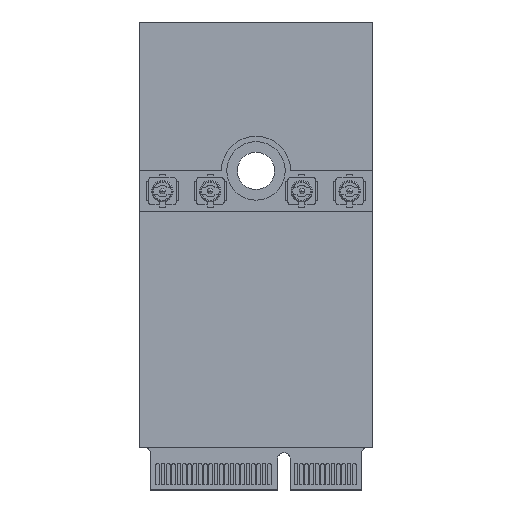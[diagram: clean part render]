
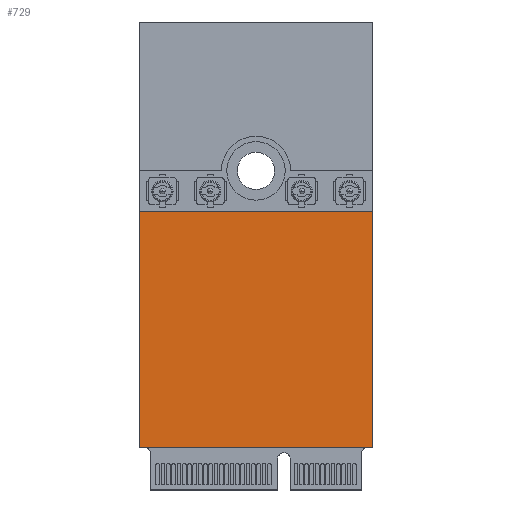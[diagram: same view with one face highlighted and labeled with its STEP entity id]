
A CAD part, top view. The second image highlights one B-rep face of the part: STEP entity #729.
In plain terms, the highlighted planar face has unit normal (0, 0, 1).
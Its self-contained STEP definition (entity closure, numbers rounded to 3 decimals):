
#721=AXIS2_PLACEMENT_3D('Plane Axis2P3D',#718,#719,#720) ;
#593=CARTESIAN_POINT('Vertex',(-11.,-3.8,1.5)) ;
#607=CARTESIAN_POINT('Vertex',(-11.,-26.,1.5)) ;
#610=CARTESIAN_POINT('Line Origine',(-11.,-14.9,1.5)) ;
#638=CARTESIAN_POINT('Vertex',(11.,-26.,1.5)) ;
#641=CARTESIAN_POINT('Line Origine',(0.,-26.,1.5)) ;
#669=CARTESIAN_POINT('Vertex',(11.,-3.8,1.5)) ;
#672=CARTESIAN_POINT('Line Origine',(11.,-14.9,1.5)) ;
#694=CARTESIAN_POINT('Line Origine',(0.,-3.8,1.5)) ;
#718=CARTESIAN_POINT('Axis2P3D Location',(0.,0.,1.5)) ;
#611=DIRECTION('Vector Direction',(0.,-1.,0.)) ;
#642=DIRECTION('Vector Direction',(-1.,0.,0.)) ;
#673=DIRECTION('Vector Direction',(0.,1.,0.)) ;
#695=DIRECTION('Vector Direction',(1.,0.,0.)) ;
#719=DIRECTION('Axis2P3D Direction',(0.,0.,1.)) ;
#720=DIRECTION('Axis2P3D XDirection',(1.,0.,0.)) ;
#612=VECTOR('Line Direction',#611,1.) ;
#643=VECTOR('Line Direction',#642,1.) ;
#674=VECTOR('Line Direction',#673,1.) ;
#696=VECTOR('Line Direction',#695,1.) ;
#724=ORIENTED_EDGE('',*,*,#614,.T.) ;
#725=ORIENTED_EDGE('',*,*,#645,.T.) ;
#726=ORIENTED_EDGE('',*,*,#676,.T.) ;
#727=ORIENTED_EDGE('',*,*,#698,.T.) ;
#729=ADVANCED_FACE('Top-Side-Component-Area',(#728),#722,.T.) ;
#614=EDGE_CURVE('',#594,#608,#613,.T.) ;
#645=EDGE_CURVE('',#608,#639,#644,.F.) ;
#676=EDGE_CURVE('',#639,#670,#675,.T.) ;
#698=EDGE_CURVE('',#670,#594,#697,.F.) ;
#723=EDGE_LOOP('',(#724,#725,#726,#727)) ;
#728=FACE_OUTER_BOUND('',#723,.T.) ;
#613=LINE('Line',#610,#612) ;
#644=LINE('Line',#641,#643) ;
#675=LINE('Line',#672,#674) ;
#697=LINE('Line',#694,#696) ;
#722=PLANE('Plane',#721) ;
#594=VERTEX_POINT('',#593) ;
#608=VERTEX_POINT('',#607) ;
#639=VERTEX_POINT('',#638) ;
#670=VERTEX_POINT('',#669) ;
